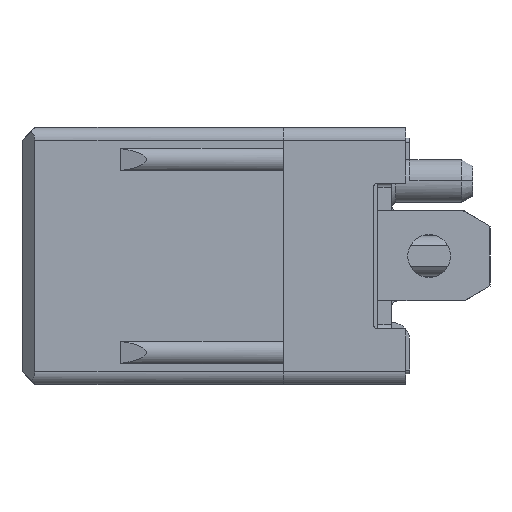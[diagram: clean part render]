
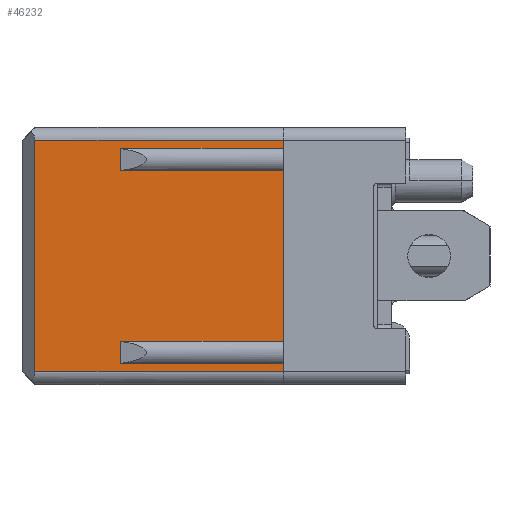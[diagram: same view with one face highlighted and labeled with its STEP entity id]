
A CAD part, left-side view. The second image highlights one B-rep face of the part: STEP entity #46232.
In plain terms, the highlighted planar face has unit normal (-1, 0, 0).
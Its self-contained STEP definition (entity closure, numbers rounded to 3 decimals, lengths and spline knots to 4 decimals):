
#5720=CARTESIAN_POINT('',(-27.66,6.32,1.9902));
#5729=DIRECTION('',(0.,-1.,0.));
#5730=VECTOR('',#5729,3.8);
#5731=CARTESIAN_POINT('',(-27.66,6.32,2.5098));
#5732=LINE('',#5731,#5730);
#5733=DIRECTION('',(0.,1.,0.));
#5734=VECTOR('',#5733,3.8);
#5735=CARTESIAN_POINT('',(-27.66,2.52,1.9902));
#5736=LINE('',#5735,#5734);
#5737=CARTESIAN_POINT('',(-27.66,6.32,2.5098));
#5746=DIRECTION('',(0.,0.,-1.));
#5747=VECTOR('',#5746,0.5196);
#5748=CARTESIAN_POINT('',(-27.66,6.32,2.5098));
#5749=LINE('',#5748,#5747);
#5750=DIRECTION('',(0.,0.,-1.));
#5751=VECTOR('',#5750,3.9804);
#5752=CARTESIAN_POINT('',(-27.66,2.52,1.9902));
#5753=LINE('',#5752,#5751);
#5754=DIRECTION('',(0.,0.,-1.));
#5755=VECTOR('',#5754,0.1902);
#5756=CARTESIAN_POINT('',(-27.66,2.52,-2.5098));
#5757=LINE('',#5756,#5755);
#5758=DIRECTION('',(0.,0.,-1.));
#5759=VECTOR('',#5758,0.1902);
#5760=CARTESIAN_POINT('',(-27.66,2.52,2.7));
#5761=LINE('',#5760,#5759);
#5771=DIRECTION('',(0.,-1.,0.));
#5772=VECTOR('',#5771,3.8);
#5773=CARTESIAN_POINT('',(-27.66,6.32,-1.9902));
#5774=LINE('',#5773,#5772);
#5775=DIRECTION('',(0.,1.,0.));
#5776=VECTOR('',#5775,3.8);
#5777=CARTESIAN_POINT('',(-27.66,2.52,-2.5098));
#5778=LINE('',#5777,#5776);
#5788=DIRECTION('',(0.,0.,1.));
#5789=VECTOR('',#5788,0.5196);
#5790=CARTESIAN_POINT('',(-27.66,6.32,-2.5098));
#5791=LINE('',#5790,#5789);
#5802=DIRECTION('',(0.,-1.,0.));
#5803=VECTOR('',#5802,5.8);
#5804=CARTESIAN_POINT('',(-27.66,8.32,-2.7));
#5805=LINE('',#5804,#5803);
#6405=DIRECTION('',(0.,1.,0.));
#6406=VECTOR('',#6405,5.8);
#6407=CARTESIAN_POINT('',(-27.66,2.52,2.7));
#6408=LINE('',#6407,#6406);
#6418=DIRECTION('',(0.,0.,1.));
#6419=VECTOR('',#6418,5.4);
#6420=CARTESIAN_POINT('',(-27.66,8.32,-2.7));
#6421=LINE('',#6420,#6419);
#33321=CARTESIAN_POINT('',(-27.66,2.52,1.9902));
#33323=VERTEX_POINT('',#33321);
#33325=CARTESIAN_POINT('',(-27.66,2.52,-1.9902));
#33326=VERTEX_POINT('',#33325);
#33329=CARTESIAN_POINT('',(-27.66,2.52,-2.5098));
#33330=VERTEX_POINT('',#33329);
#33331=CARTESIAN_POINT('',(-27.66,2.52,-2.7));
#33332=VERTEX_POINT('',#33331);
#33333=CARTESIAN_POINT('',(-27.66,2.52,2.7));
#33334=VERTEX_POINT('',#33333);
#33335=CARTESIAN_POINT('',(-27.66,2.52,2.5098));
#33336=VERTEX_POINT('',#33335);
#33337=VERTEX_POINT('',#5720);
#33339=VERTEX_POINT('',#5737);
#33340=CARTESIAN_POINT('',(-27.66,8.32,2.7));
#33341=VERTEX_POINT('',#33340);
#33342=CARTESIAN_POINT('',(-27.66,8.32,-2.7));
#33343=VERTEX_POINT('',#33342);
#33344=CARTESIAN_POINT('',(-27.66,6.32,-2.5098));
#33345=VERTEX_POINT('',#33344);
#33346=CARTESIAN_POINT('',(-27.66,6.32,-1.9902));
#33347=VERTEX_POINT('',#33346);
#46207=CARTESIAN_POINT('',(-27.66,5.42,0.));
#46208=DIRECTION('',(1.,0.,0.));
#46209=DIRECTION('',(0.,0.,-1.));
#46210=AXIS2_PLACEMENT_3D('',#46207,#46208,#46209);
#46211=PLANE('',#46210);
#46212=ORIENTED_EDGE('',*,*,#46202,.T.);
#46213=ORIENTED_EDGE('',*,*,#46190,.F.);
#46214=ORIENTED_EDGE('',*,*,#46166,.T.);
#46216=ORIENTED_EDGE('',*,*,#46215,.F.);
#46218=ORIENTED_EDGE('',*,*,#46217,.F.);
#46220=ORIENTED_EDGE('',*,*,#46219,.F.);
#46221=ORIENTED_EDGE('',*,*,#46160,.T.);
#46223=ORIENTED_EDGE('',*,*,#46222,.F.);
#46225=ORIENTED_EDGE('',*,*,#46224,.T.);
#46227=ORIENTED_EDGE('',*,*,#46226,.F.);
#46228=ORIENTED_EDGE('',*,*,#46149,.T.);
#46229=ORIENTED_EDGE('',*,*,#46186,.F.);
#46230=EDGE_LOOP('',(#46212,#46213,#46214,#46216,#46218,#46220,#46221,#46223,
#46225,#46227,#46228,#46229));
#46231=FACE_OUTER_BOUND('',#46230,.F.);
#46232=ADVANCED_FACE('',(#46231),#46211,.F.);
#46149=EDGE_CURVE('',#33334,#33336,#5761,.T.);
#46160=EDGE_CURVE('',#33330,#33332,#5757,.T.);
#46166=EDGE_CURVE('',#33323,#33326,#5753,.T.);
#46186=EDGE_CURVE('',#33339,#33336,#5732,.T.);
#46190=EDGE_CURVE('',#33323,#33337,#5736,.T.);
#46202=EDGE_CURVE('',#33339,#33337,#5749,.T.);
#46215=EDGE_CURVE('',#33347,#33326,#5774,.T.);
#46217=EDGE_CURVE('',#33345,#33347,#5791,.T.);
#46219=EDGE_CURVE('',#33330,#33345,#5778,.T.);
#46222=EDGE_CURVE('',#33343,#33332,#5805,.T.);
#46224=EDGE_CURVE('',#33343,#33341,#6421,.T.);
#46226=EDGE_CURVE('',#33334,#33341,#6408,.T.);
